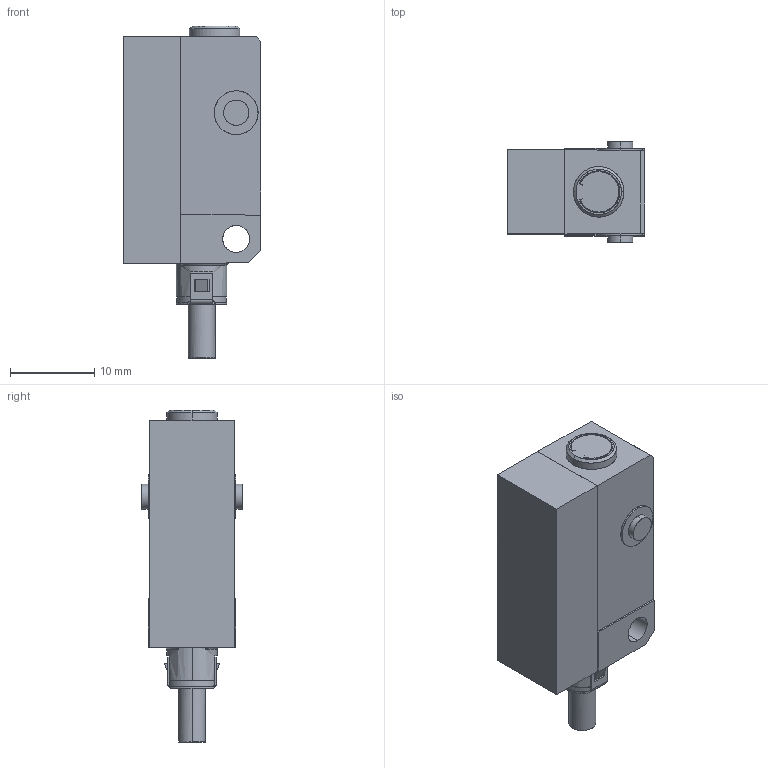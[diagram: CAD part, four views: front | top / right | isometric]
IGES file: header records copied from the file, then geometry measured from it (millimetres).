
Start section: Comment
Global section: file name: FPDK 10 Plus_oPot.igs; native system:  By UGS Corp.; preprocessor: XPlus GENERIC/IGES 3.0; author: Author; organization: Title; date: 20081114.140348; units: millimetre
Bounding box: 16.3 x 12 x 39.45 mm (x, y, z)
Surface area: 2081.4 mm2 (no closed solid volume)
Topology: 0 solids, 0 shells, 120 faces, 622 edges, 622 vertices
Faces by surface type: bspline 120
